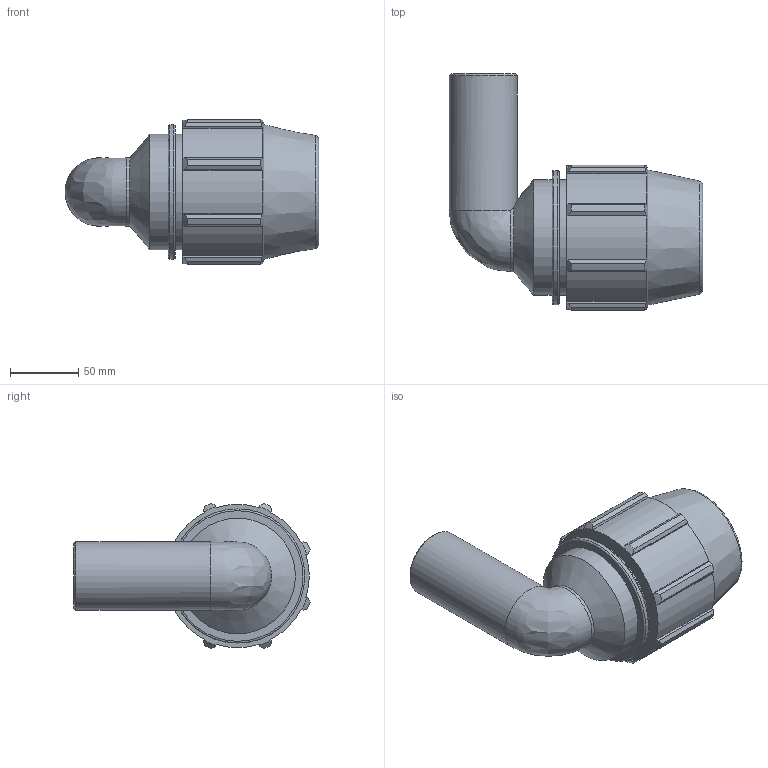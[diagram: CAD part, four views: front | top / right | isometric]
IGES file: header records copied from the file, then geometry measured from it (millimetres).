
Global section: file name: 073500063050_183500063050_0735060630500A.ipt; native system: Autodesk Inventor 2015; preprocessor: unknown; author: KIM; date: 20170608.042247; units: millimetre
Bounding box: 186 x 173.16 x 106.32 mm (x, y, z)
Volume: 750077.9 mm3; surface area: 119184 mm2
Topology: 1 solids, 1 shells, 82 faces, 231 edges, 154 vertices
Faces by surface type: plane 39, cylinder 21, cone 12, revolution 9, bspline 1
Full cylindrical faces by diameter (mm): 50 x1, 84.75 x2, 98.31 x1
